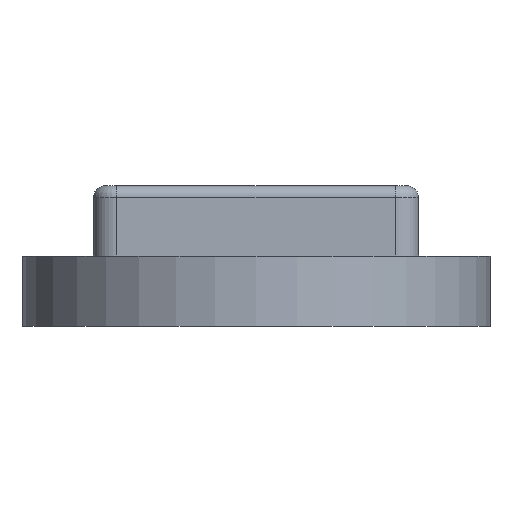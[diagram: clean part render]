
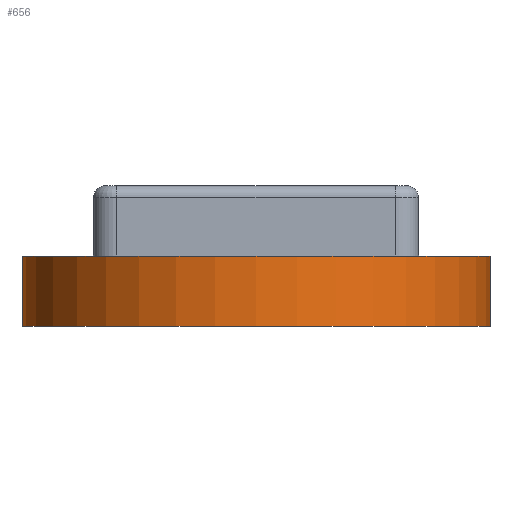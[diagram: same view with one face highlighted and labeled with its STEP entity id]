
A CAD part, front view. The second image highlights one B-rep face of the part: STEP entity #656.
In plain terms, the highlighted cylindrical face has radius 10 mm (diameter 20 mm), a partial arc.
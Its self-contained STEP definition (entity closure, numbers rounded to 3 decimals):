
#37 = ORIENTED_EDGE ( 'NONE', *, *, #346, .F. ) ;
#46 = VERTEX_POINT ( 'NONE', #458 ) ;
#65 = VERTEX_POINT ( 'NONE', #196 ) ;
#71 = EDGE_CURVE ( 'NONE', #65, #46, #252, .T. ) ;
#95 = ORIENTED_EDGE ( 'NONE', *, *, #810, .T. ) ;
#126 = FACE_OUTER_BOUND ( 'NONE', #361, .T. ) ;
#137 = CIRCLE ( 'NONE', #271, 10. ) ;
#161 = ORIENTED_EDGE ( 'NONE', *, *, #71, .F. ) ;
#196 = CARTESIAN_POINT ( 'NONE',  ( 10., -30., 3. ) ) ;
#198 = DIRECTION ( 'NONE',  ( -1., 0., 0. ) ) ;
#237 = DIRECTION ( 'NONE',  ( 0., 0., -1. ) ) ;
#252 = LINE ( 'NONE', #383, #732 ) ;
#271 = AXIS2_PLACEMENT_3D ( 'NONE', #275, #738, #602 ) ;
#275 = CARTESIAN_POINT ( 'NONE',  ( 0., -30., 0. ) ) ;
#302 = AXIS2_PLACEMENT_3D ( 'NONE', #518, #775, #198 ) ;
#321 = CYLINDRICAL_SURFACE ( 'NONE', #302, 10. ) ;
#322 = EDGE_CURVE ( 'NONE', #665, #46, #137, .T. ) ;
#327 = AXIS2_PLACEMENT_3D ( 'NONE', #414, #679, #476 ) ;
#346 = EDGE_CURVE ( 'NONE', #352, #65, #719, .T. ) ;
#352 = VERTEX_POINT ( 'NONE', #542 ) ;
#361 = EDGE_LOOP ( 'NONE', ( #583, #161, #37, #95 ) ) ;
#383 = CARTESIAN_POINT ( 'NONE',  ( 10., -30., 3. ) ) ;
#397 = CARTESIAN_POINT ( 'NONE',  ( -10., -30., 3. ) ) ;
#414 = CARTESIAN_POINT ( 'NONE',  ( 0., -30., 3. ) ) ;
#458 = CARTESIAN_POINT ( 'NONE',  ( 10., -30., 0. ) ) ;
#476 = DIRECTION ( 'NONE',  ( 1., 0., 0. ) ) ;
#518 = CARTESIAN_POINT ( 'NONE',  ( 0., -30., 3. ) ) ;
#542 = CARTESIAN_POINT ( 'NONE',  ( -10., -30., 3. ) ) ;
#553 = LINE ( 'NONE', #397, #660 ) ;
#583 = ORIENTED_EDGE ( 'NONE', *, *, #322, .T. ) ;
#602 = DIRECTION ( 'NONE',  ( 1., 0., 0. ) ) ;
#650 = DIRECTION ( 'NONE',  ( 0., 0., -1. ) ) ;
#655 = CARTESIAN_POINT ( 'NONE',  ( -10., -30., 0. ) ) ;
#656 = ADVANCED_FACE ( 'NONE', ( #126 ), #321, .T. ) ;
#660 = VECTOR ( 'NONE', #237, 1000. ) ;
#665 = VERTEX_POINT ( 'NONE', #655 ) ;
#679 = DIRECTION ( 'NONE',  ( 0., 0., 1. ) ) ;
#719 = CIRCLE ( 'NONE', #327, 10. ) ;
#732 = VECTOR ( 'NONE', #650, 1000. ) ;
#738 = DIRECTION ( 'NONE',  ( 0., 0., 1. ) ) ;
#775 = DIRECTION ( 'NONE',  ( 0., 0., -1. ) ) ;
#810 = EDGE_CURVE ( 'NONE', #352, #665, #553, .T. ) ;
